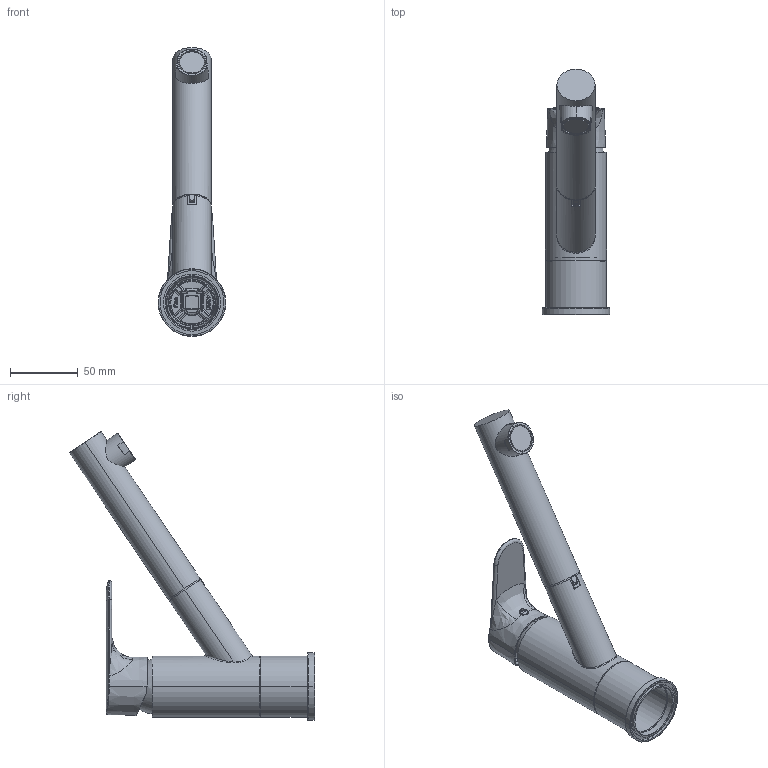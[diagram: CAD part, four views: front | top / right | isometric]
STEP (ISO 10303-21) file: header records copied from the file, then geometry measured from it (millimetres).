
FILE_DESCRIPTION((''),'2;1');
FILE_NAME('F3838CR_FILE_3D','2018-01-15T',('ivanv'),(''),'CREO PARAMETRIC BY PTC INC, 2016260','CREO PARAMETRIC BY PTC INC, 2016260','');
FILE_SCHEMA(('CONFIG_CONTROL_DESIGN'));
Length unit declared in the file: millimetre
Products named in the file (1): F3838CR_FILE_3D
Bounding box: 49.8 x 180.3 x 212.54 mm (x, y, z)
Volume: 164720.5 mm3; surface area: 86006.3 mm2
Topology: 4 solids, 4 shells, 1039 faces, 2739 edges, 1740 vertices
Faces by surface type: plane 661, bspline 161, cylinder 107, torus 42, cone 42, sphere 26
Entity records: 42782 total; most frequent: CARTESIAN_POINT 19240, ORIENTED_EDGE 5474, DIRECTION 3989, EDGE_CURVE 2737, VERTEX_POINT 1740, VECTOR 1359, LINE 1359, AXIS2_PLACEMENT_3D 1315
